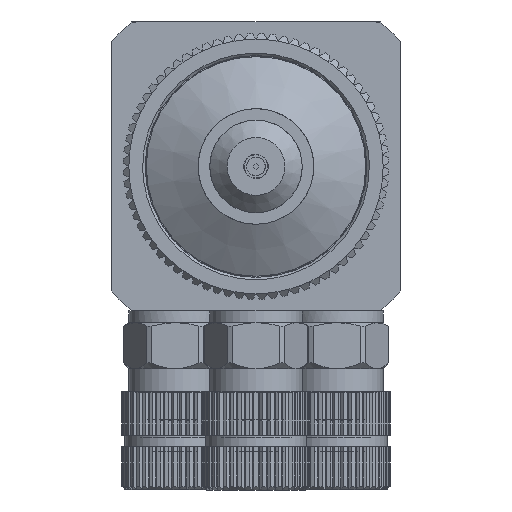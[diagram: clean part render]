
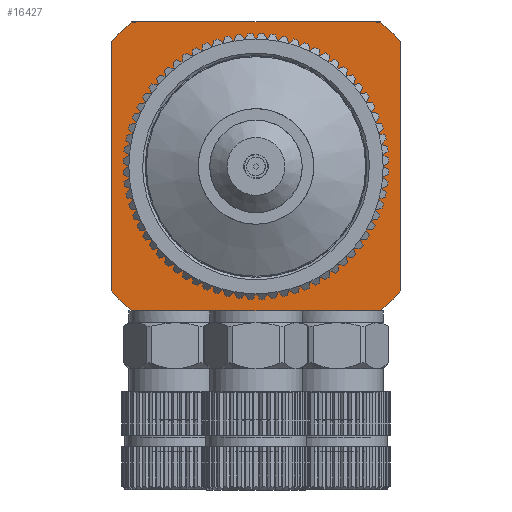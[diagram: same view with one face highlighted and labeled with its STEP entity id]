
A CAD part, front view. The second image highlights one B-rep face of the part: STEP entity #16427.
In plain terms, the highlighted planar face has unit normal (0, -1, 0).
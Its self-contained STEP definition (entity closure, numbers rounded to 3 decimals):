
#291 = VERTEX_POINT ( 'NONE', #17641 ) ;
#1076 = AXIS2_PLACEMENT_3D ( 'NONE', #22235, #50076, #38131 ) ;
#1335 = EDGE_CURVE ( 'NONE', #9152, #21114, #22982, .T. ) ;
#1365 = CARTESIAN_POINT ( 'NONE',  ( -10.77, -12.5, -12.5 ) ) ;
#3522 = VERTEX_POINT ( 'NONE', #39412 ) ;
#4562 = DIRECTION ( 'NONE',  ( 0., 1., 0. ) ) ;
#5040 = VECTOR ( 'NONE', #25910, 1000. ) ;
#5382 = DIRECTION ( 'NONE',  ( 0., 0., -1. ) ) ;
#6917 = DIRECTION ( 'NONE',  ( 0., -1., 0. ) ) ;
#7013 = CARTESIAN_POINT ( 'NONE',  ( -10.77, -12.5, 12.5 ) ) ;
#7610 = EDGE_LOOP ( 'NONE', ( #27624, #27593, #45722, #47747, #17925, #29045, #14421, #48151, #46584 ) ) ;
#9046 = EDGE_CURVE ( 'NONE', #27412, #33204, #28016, .T. ) ;
#9048 = CARTESIAN_POINT ( 'NONE',  ( 12.5, -12.5, 12.5 ) ) ;
#9152 = VERTEX_POINT ( 'NONE', #26151 ) ;
#9797 = FACE_OUTER_BOUND ( 'NONE', #7610, .T. ) ;
#11516 = CARTESIAN_POINT ( 'NONE',  ( 0., -12.5, -12.5 ) ) ;
#12135 = AXIS2_PLACEMENT_3D ( 'NONE', #16090, #48648, #35917 ) ;
#14421 = ORIENTED_EDGE ( 'NONE', *, *, #49530, .F. ) ;
#14526 = VERTEX_POINT ( 'NONE', #18428 ) ;
#15838 = AXIS2_PLACEMENT_3D ( 'NONE', #49548, #17508, #25855 ) ;
#16090 = CARTESIAN_POINT ( 'NONE',  ( 0., -12.5, 0. ) ) ;
#16427 = ADVANCED_FACE ( 'NONE', ( #44950, #9797 ), #37662, .T. ) ;
#16653 = CARTESIAN_POINT ( 'NONE',  ( 10.77, -12.5, 12.5 ) ) ;
#16700 = CIRCLE ( 'NONE', #15838, 10.5 ) ;
#17508 = DIRECTION ( 'NONE',  ( 0., 1., 0. ) ) ;
#17612 = EDGE_CURVE ( 'NONE', #43297, #21114, #30058, .T. ) ;
#17641 = CARTESIAN_POINT ( 'NONE',  ( 10.77, -12.5, -12.5 ) ) ;
#17925 = ORIENTED_EDGE ( 'NONE', *, *, #9046, .F. ) ;
#18362 = LINE ( 'NONE', #38963, #27243 ) ;
#18428 = CARTESIAN_POINT ( 'NONE',  ( 0., -12.5, -10.5 ) ) ;
#19300 = VECTOR ( 'NONE', #47181, 1000. ) ;
#19522 = EDGE_CURVE ( 'NONE', #27412, #3522, #39350, .T. ) ;
#20182 = EDGE_LOOP ( 'NONE', ( #50392 ) ) ;
#20530 = VERTEX_POINT ( 'NONE', #39549 ) ;
#21054 = CARTESIAN_POINT ( 'NONE',  ( 12.5, -12.5, 10.77 ) ) ;
#21114 = VERTEX_POINT ( 'NONE', #1365 ) ;
#22235 = CARTESIAN_POINT ( 'NONE',  ( 0., -12.5, 0. ) ) ;
#22982 = LINE ( 'NONE', #11516, #19300 ) ;
#24022 = VERTEX_POINT ( 'NONE', #21054 ) ;
#24306 = CARTESIAN_POINT ( 'NONE',  ( -12.5, -12.5, -10.77 ) ) ;
#25855 = DIRECTION ( 'NONE',  ( 0., 0., -1. ) ) ;
#25910 = DIRECTION ( 'NONE',  ( -1., 0., 0. ) ) ;
#26151 = CARTESIAN_POINT ( 'NONE',  ( 0., -12.5, -12.5 ) ) ;
#26207 = CARTESIAN_POINT ( 'NONE',  ( 0., -12.5, 0. ) ) ;
#27236 = DIRECTION ( 'NONE',  ( 0., 0., -1. ) ) ;
#27243 = VECTOR ( 'NONE', #50151, 1000. ) ;
#27412 = VERTEX_POINT ( 'NONE', #7013 ) ;
#27560 = EDGE_CURVE ( 'NONE', #24022, #33204, #44577, .T. ) ;
#27593 = ORIENTED_EDGE ( 'NONE', *, *, #32833, .F. ) ;
#27624 = ORIENTED_EDGE ( 'NONE', *, *, #45870, .F. ) ;
#28016 = LINE ( 'NONE', #48543, #39402 ) ;
#28583 = DIRECTION ( 'NONE',  ( 0., -1., 0. ) ) ;
#29045 = ORIENTED_EDGE ( 'NONE', *, *, #19522, .T. ) ;
#29316 = LINE ( 'NONE', #41798, #5040 ) ;
#30058 = CIRCLE ( 'NONE', #45820, 16.5 ) ;
#30138 = DIRECTION ( 'NONE',  ( 0., 0., 1. ) ) ;
#30657 = CARTESIAN_POINT ( 'NONE',  ( -12.5, -12.5, 12.5 ) ) ;
#32304 = VECTOR ( 'NONE', #30138, 1000. ) ;
#32446 = DIRECTION ( 'NONE',  ( 1., 0., 0. ) ) ;
#32833 = EDGE_CURVE ( 'NONE', #20530, #291, #48481, .T. ) ;
#33204 = VERTEX_POINT ( 'NONE', #16653 ) ;
#35917 = DIRECTION ( 'NONE',  ( 0., 0., -1. ) ) ;
#37662 = PLANE ( 'NONE',  #44906 ) ;
#38131 = DIRECTION ( 'NONE',  ( 0., 0., -1. ) ) ;
#38455 = LINE ( 'NONE', #30657, #32304 ) ;
#38531 = AXIS2_PLACEMENT_3D ( 'NONE', #39993, #4562, #27236 ) ;
#38963 = CARTESIAN_POINT ( 'NONE',  ( 12.5, -12.5, 12.5 ) ) ;
#39350 = CIRCLE ( 'NONE', #1076, 16.5 ) ;
#39402 = VECTOR ( 'NONE', #32446, 1000. ) ;
#39412 = CARTESIAN_POINT ( 'NONE',  ( -12.5, -12.5, 10.77 ) ) ;
#39549 = CARTESIAN_POINT ( 'NONE',  ( 12.5, -12.5, -10.77 ) ) ;
#39993 = CARTESIAN_POINT ( 'NONE',  ( 0., -12.5, 0. ) ) ;
#41798 = CARTESIAN_POINT ( 'NONE',  ( 0., -12.5, -12.5 ) ) ;
#42801 = EDGE_CURVE ( 'NONE', #24022, #20530, #18362, .T. ) ;
#43297 = VERTEX_POINT ( 'NONE', #24306 ) ;
#44577 = CIRCLE ( 'NONE', #12135, 16.5 ) ;
#44906 = AXIS2_PLACEMENT_3D ( 'NONE', #9048, #28583, #5382 ) ;
#44950 = FACE_BOUND ( 'NONE', #20182, .T. ) ;
#45722 = ORIENTED_EDGE ( 'NONE', *, *, #42801, .F. ) ;
#45820 = AXIS2_PLACEMENT_3D ( 'NONE', #26207, #6917, #50906 ) ;
#45870 = EDGE_CURVE ( 'NONE', #291, #9152, #29316, .T. ) ;
#46328 = EDGE_CURVE ( 'NONE', #14526, #14526, #16700, .T. ) ;
#46584 = ORIENTED_EDGE ( 'NONE', *, *, #1335, .F. ) ;
#47181 = DIRECTION ( 'NONE',  ( -1., 0., 0. ) ) ;
#47747 = ORIENTED_EDGE ( 'NONE', *, *, #27560, .T. ) ;
#48151 = ORIENTED_EDGE ( 'NONE', *, *, #17612, .T. ) ;
#48481 = CIRCLE ( 'NONE', #38531, 16.5 ) ;
#48543 = CARTESIAN_POINT ( 'NONE',  ( -12.5, -12.5, 12.5 ) ) ;
#48648 = DIRECTION ( 'NONE',  ( 0., -1., 0. ) ) ;
#49530 = EDGE_CURVE ( 'NONE', #43297, #3522, #38455, .T. ) ;
#49548 = CARTESIAN_POINT ( 'NONE',  ( 0., -12.5, 0. ) ) ;
#50076 = DIRECTION ( 'NONE',  ( 0., -1., 0. ) ) ;
#50151 = DIRECTION ( 'NONE',  ( 0., 0., -1. ) ) ;
#50392 = ORIENTED_EDGE ( 'NONE', *, *, #46328, .T. ) ;
#50906 = DIRECTION ( 'NONE',  ( 0., 0., -1. ) ) ;
